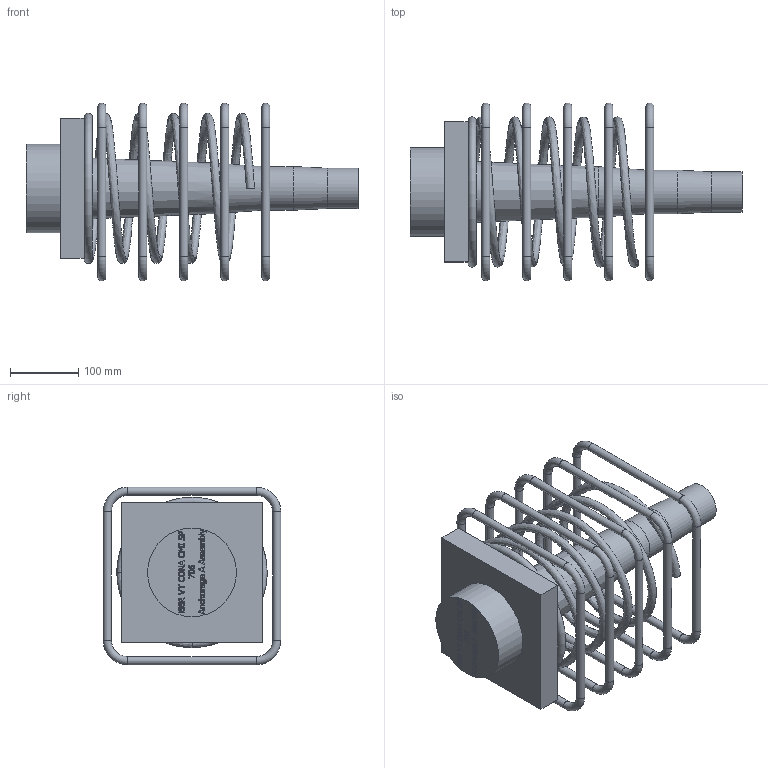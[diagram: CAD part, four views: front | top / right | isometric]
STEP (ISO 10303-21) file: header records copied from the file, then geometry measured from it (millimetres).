
FILE_DESCRIPTION(/* description */ (''),/* implementation_level */ '2;1');
FILE_NAME(/* name */ 'Z:\04 Publications\05 Give-out\BBR\6_3D_Models\BBR VT CONA CMI\BBR VT CONA CMI SP\00706\BBR VT CONA CMI SP 706_Anchorage A Assembly_CS-34,28.stp',/* time_stamp */ '2017-05-10T08:44:20+02:00',/* author */ ('IP'),/* organization */ (''),/* preprocessor_version */ 'ST-DEVELOPER v16.1',/* originating_system */ 'Autodesk Inventor 2016',/* authorisation */ '');
FILE_SCHEMA (('AUTOMOTIVE_DESIGN { 1 0 10303 214 3 1 1 }'));
Length unit declared in the file: millimetre
Products named in the file (1): BBR VT CONA CMI SP 706_Anchorage A Assembly_CS-34,28
Bounding box: 485.97 x 260 x 260 mm (x, y, z)
Volume: 4746443 mm3; surface area: 533864 mm2
Topology: 7 solids, 7 shells, 636 faces, 1688 edges, 1111 vertices
Faces by surface type: plane 307, bspline 282, torus 23, cylinder 23, cone 1
Full cylindrical faces by diameter (mm): 12 x20, 59 x1, 64 x1, 130 x1
Entity records: 23649 total; most frequent: CARTESIAN_POINT 9252, ORIENTED_EDGE 3286, DIRECTION 1842, EDGE_CURVE 1640, VERTEX_POINT 1110, LINE 1022, VECTOR 1022, EDGE_LOOP 741
